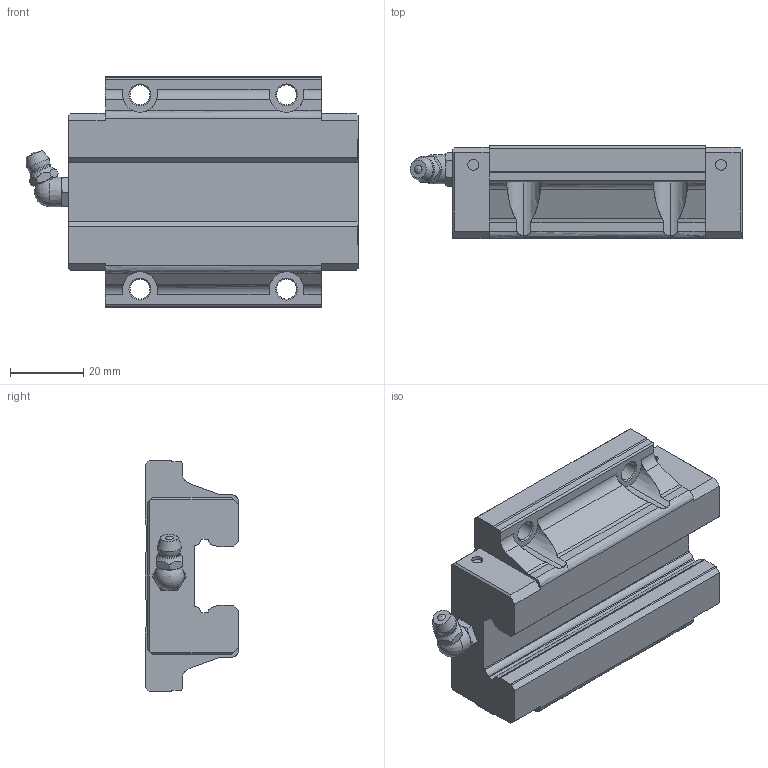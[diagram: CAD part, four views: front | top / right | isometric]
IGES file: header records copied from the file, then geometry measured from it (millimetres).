
Start section: Data from Parasolid IGES Translator 26.0.171, Copyright(c) 2006 Siemens PLM Software. All Rights Reserved.
Global section: file name: SHS20C1SS(GK) BLOCK(B-M6F1).igs; native system: By Siemens PLM Incorporated; preprocessor: XPlus GENERIC/IGES 26.0.171; author: Noname; organization: Noname; date: 20240514.033623; units: millimetre
Bounding box: 90.6 x 25.4 x 63 mm (x, y, z)
Surface area: 18213.8 mm2 (no closed solid volume)
Topology: 0 solids, 0 shells, 179 faces, 982 edges, 944 vertices
Faces by surface type: extrusion 98, revolution 81
